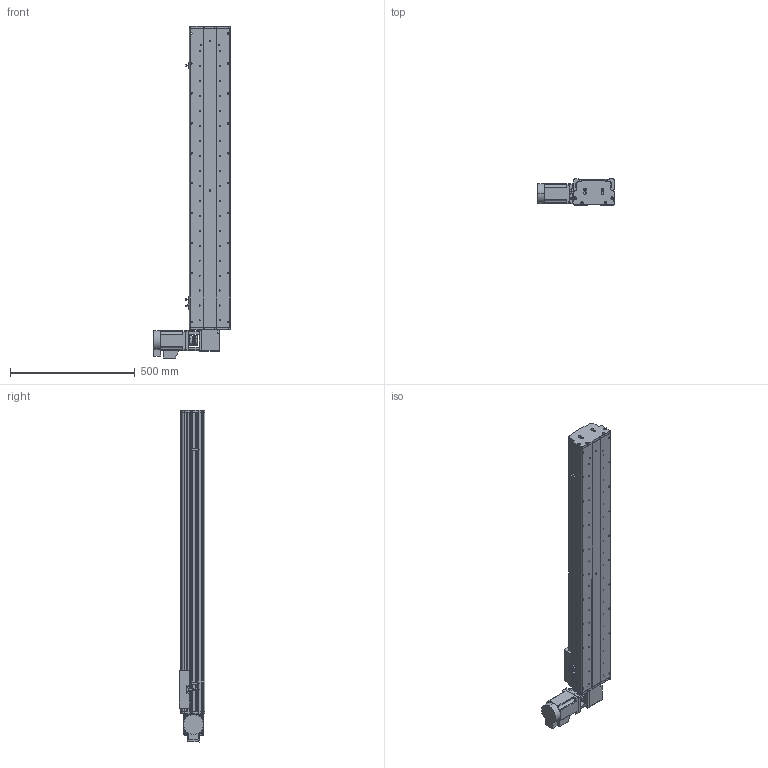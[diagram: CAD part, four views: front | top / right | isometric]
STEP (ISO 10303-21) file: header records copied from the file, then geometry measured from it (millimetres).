
FILE_DESCRIPTION (( 'STEP AP214' ), '1' );
FILE_NAME ('KSD165B-S950-MRT-CM .STEP', '2017-10-17T01:28:27', ( '微软用户' ), ( '微软中国' ), 'SwSTEP 2.0', 'SolidWorks 2014', '' );
FILE_SCHEMA (( 'AUTOMOTIVE_DESIGN' ));
Length unit declared in the file: millimetre
Products named in the file (16): KSD165B-S950-MRT-CM ; 165宽马达安装板同步带左-改; KSD165模组-同步带防尘盖1-950行程-最新版; KSD165模组同步带底板-950行程-最新; 拸秶雄ん750W侜督萇儂; 165宽安装板同步带带电机座750W; C39ㄜ1419WP; U倰嫖萇假蚾璃; U倰嫖萇EEㄜSX672; 覜茼え68遵圉猾敕; KSD165模组-同步带-防撞垫2; KSD165模组同步带-防撞垫1; KSD165耀郪-ヶ傷啣1-肮祭湍; KSD165模组-后端板1-同步带; 130宽马达安装板1-带电机座750W（1）; KSD165模组-同步带滑动座-最新版
Assembly tree (19 placements, depth 2):
  KSD165B-S950-MRT-CM 
    KSD165模组-同步带滑动座-最新版
    130宽马达安装板1-带电机座750W（1）
    KSD165模组-后端板1-同步带
    KSD165耀郪-ヶ傷啣1-肮祭湍
    KSD165模组同步带-防撞垫1
    KSD165模组-同步带-防撞垫2
    覜茼え68遵圉猾敕
    U倰嫖萇EEㄜSX672  x3
    U倰嫖萇假蚾璃  x3
    C39ㄜ1419WP
    165宽安装板同步带带电机座750W
    拸秶雄ん750W侜督萇儂
    KSD165模组同步带底板-950行程-最新
    KSD165模组-同步带防尘盖1-950行程-最新版
    165宽马达安装板同步带左-改
Bounding box: 307.5 x 104 x 1331.06 mm (x, y, z)
Volume: 7662733.5 mm3; surface area: 1727612 mm2
Topology: 20 solids, 21 shells, 1504 faces, 4182 edges, 2709 vertices
Faces by surface type: cylinder 829, plane 581, cone 94
Entity records: 47947 total; most frequent: CARTESIAN_POINT 10027, DIRECTION 7452, ORIENTED_EDGE 7016, EDGE_CURVE 3508, AXIS2_PLACEMENT_3D 2838, VERTEX_POINT 2301, LINE 1776, VECTOR 1776
